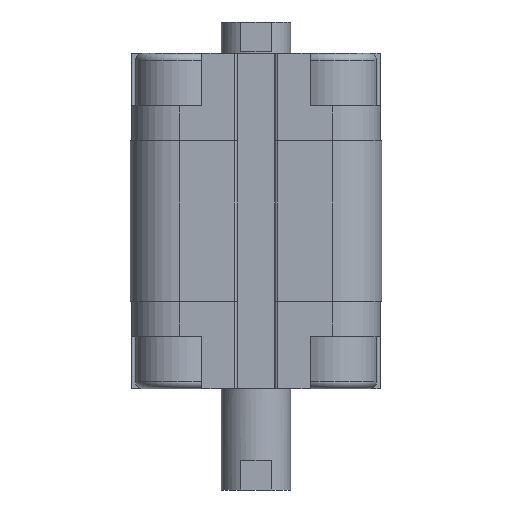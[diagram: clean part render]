
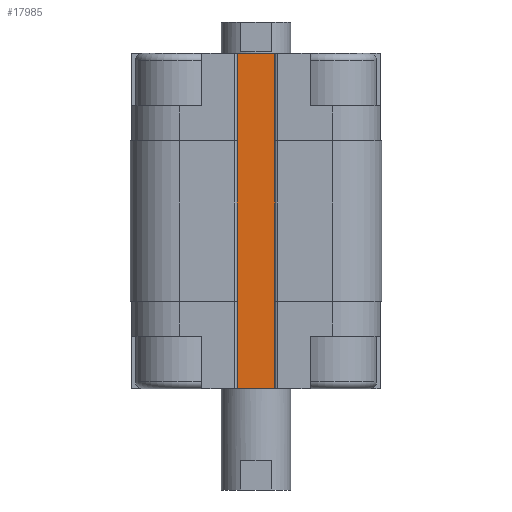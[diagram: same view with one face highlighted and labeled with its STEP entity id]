
A CAD part, front view. The second image highlights one B-rep face of the part: STEP entity #17985.
In plain terms, the highlighted planar face has unit normal (0, -1, 0).
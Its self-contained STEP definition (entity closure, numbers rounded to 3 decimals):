
#51 = EDGE_CURVE ( 'NONE', #13435, #14990, #2837, .T. ) ;
#498 = ORIENTED_EDGE ( 'NONE', *, *, #16865, .T. ) ;
#834 = PLANE ( 'NONE',  #13112 ) ;
#1388 = DIRECTION ( 'NONE',  ( 0., 0., 1. ) ) ;
#1843 = CARTESIAN_POINT ( 'NONE',  ( -3., -13., 0. ) ) ;
#2717 = CARTESIAN_POINT ( 'NONE',  ( 3., -13., -12.5 ) ) ;
#2837 = LINE ( 'NONE', #7231, #6352 ) ;
#3450 = LINE ( 'NONE', #1843, #4508 ) ;
#3862 = DIRECTION ( 'NONE',  ( 0., 0., 1. ) ) ;
#4357 = DIRECTION ( 'NONE',  ( 1., 0., 0. ) ) ;
#4508 = VECTOR ( 'NONE', #6109, 1000. ) ;
#4568 = VECTOR ( 'NONE', #1388, 1000. ) ;
#5213 = DIRECTION ( 'NONE',  ( 0., -1., 0. ) ) ;
#5810 = ORIENTED_EDGE ( 'NONE', *, *, #17924, .F. ) ;
#6109 = DIRECTION ( 'NONE',  ( 1., 0., 0. ) ) ;
#6352 = VECTOR ( 'NONE', #4357, 1000. ) ;
#6841 = ORIENTED_EDGE ( 'NONE', *, *, #51, .T. ) ;
#6925 = FACE_OUTER_BOUND ( 'NONE', #12000, .T. ) ;
#7231 = CARTESIAN_POINT ( 'NONE',  ( -3., -13., -48. ) ) ;
#8799 = CARTESIAN_POINT ( 'NONE',  ( -3., -13., 0. ) ) ;
#9168 = VECTOR ( 'NONE', #3862, 1000. ) ;
#11230 = CARTESIAN_POINT ( 'NONE',  ( -3., -13., -12.5 ) ) ;
#12000 = EDGE_LOOP ( 'NONE', ( #18821, #5810, #6841, #498 ) ) ;
#12339 = VERTEX_POINT ( 'NONE', #14681 ) ;
#12471 = DIRECTION ( 'NONE',  ( -1., 0., 0. ) ) ;
#12654 = CARTESIAN_POINT ( 'NONE',  ( -3., -13., -12.5 ) ) ;
#13112 = AXIS2_PLACEMENT_3D ( 'NONE', #12654, #5213, #12471 ) ;
#13435 = VERTEX_POINT ( 'NONE', #15390 ) ;
#13681 = VERTEX_POINT ( 'NONE', #8799 ) ;
#13749 = CARTESIAN_POINT ( 'NONE',  ( 3., -13., -48. ) ) ;
#14462 = LINE ( 'NONE', #2717, #4568 ) ;
#14654 = EDGE_CURVE ( 'NONE', #13681, #12339, #3450, .T. ) ;
#14681 = CARTESIAN_POINT ( 'NONE',  ( 3., -13., 0. ) ) ;
#14990 = VERTEX_POINT ( 'NONE', #13749 ) ;
#15390 = CARTESIAN_POINT ( 'NONE',  ( -3., -13., -48. ) ) ;
#15421 = LINE ( 'NONE', #11230, #9168 ) ;
#16865 = EDGE_CURVE ( 'NONE', #14990, #12339, #14462, .T. ) ;
#17924 = EDGE_CURVE ( 'NONE', #13435, #13681, #15421, .T. ) ;
#17985 = ADVANCED_FACE ( 'NONE', ( #6925 ), #834, .T. ) ;
#18821 = ORIENTED_EDGE ( 'NONE', *, *, #14654, .F. ) ;
